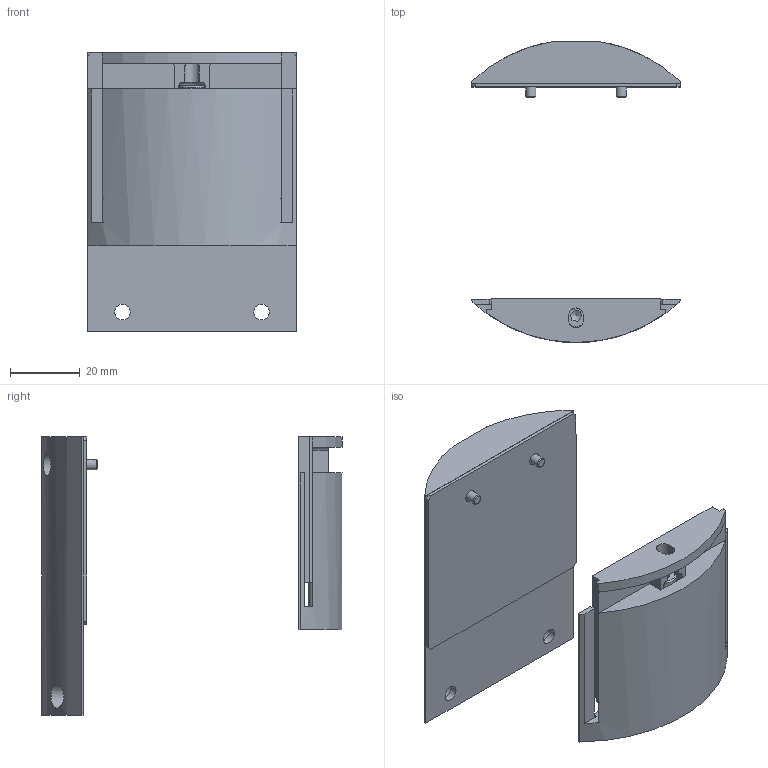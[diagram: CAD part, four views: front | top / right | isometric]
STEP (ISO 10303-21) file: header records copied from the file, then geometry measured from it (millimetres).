
FILE_DESCRIPTION(/* description */ ('Tělo krytu'),/* implementation_level */ '2;1');
FILE_NAME(/* name */ 'SUB-CH87-CMK-M04.stp',/* time_stamp */ '2026-05-07T11:59:28+02:00',/* author */ ('roman'),/* organization */ (''),/* preprocessor_version */ 'ST-DEVELOPER v20',/* originating_system */ 'Autodesk Inventor 2024',/* authorisation */ '');
FILE_SCHEMA (('AUTOMOTIVE_DESIGN { 1 0 10303 214 3 1 1 }'));
Length unit declared in the file: millimetre
Products named in the file (7): SUB-CH87-CMK-M04; CH87-CMK-APT; CH87-CMK-APH; DIN 912 - M4 x 40; CH87-CMK-FXP-M04; CH87-CMK-FXP-R03; DIN 912 - M3 x 6
Assembly tree (7 placements, depth 2):
  SUB-CH87-CMK-M04
    CH87-CMK-APT
    CH87-CMK-APH
    DIN 912 - M4 x 40
    CH87-CMK-FXP-M04
    CH87-CMK-FXP-R03
    DIN 912 - M3 x 6  x2
Bounding box: 60.03 x 86.5 x 80 mm (x, y, z)
Volume: 68575.9 mm3; surface area: 32932.5 mm2
Topology: 7 solids, 7 shells, 148 faces, 377 edges, 248 vertices
Faces by surface type: plane 95, cylinder 39, torus 8, cone 6
Full cylindrical faces by diameter (mm): 3 x2, 3.242 x1, 3.4 x2, 3.5 x2, 4 x1, 4.5 x2, 5.5 x2, 6.5 x2, 7 x3
Entity records: 4447 total; most frequent: CARTESIAN_POINT 884, DIRECTION 707, ORIENTED_EDGE 678, EDGE_CURVE 339, AXIS2_PLACEMENT_3D 241, LINE 225, VECTOR 225, VERTEX_POINT 224
